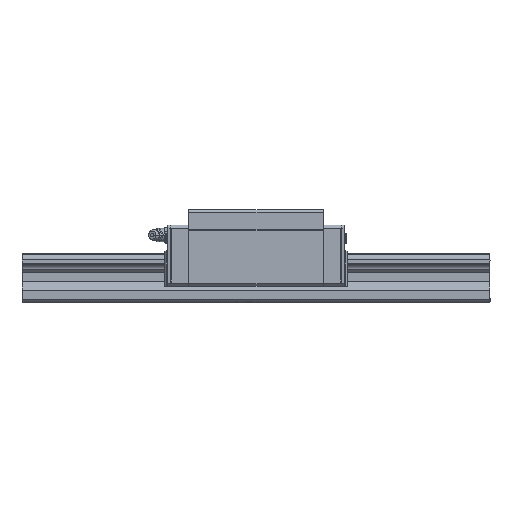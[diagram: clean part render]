
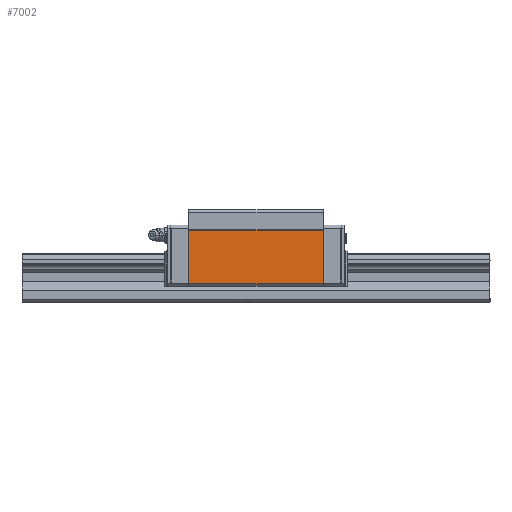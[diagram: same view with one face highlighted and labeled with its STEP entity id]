
A CAD part, top view. The second image highlights one B-rep face of the part: STEP entity #7002.
In plain terms, the highlighted planar face has unit normal (0, 0, 1).
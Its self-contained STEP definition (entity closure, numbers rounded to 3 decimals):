
#371 = DIRECTION ( 'NONE',  ( -1., 0., 0. ) ) ;
#471 = DIRECTION ( 'NONE',  ( 0., 1., 0. ) ) ;
#500 = EDGE_LOOP ( 'NONE', ( #7634, #6440, #8615, #7557 ) ) ;
#799 = VERTEX_POINT ( 'NONE', #9136 ) ;
#1112 = FACE_OUTER_BOUND ( 'NONE', #500, .T. ) ;
#1938 = EDGE_CURVE ( 'NONE', #9650, #6589, #7461, .T. ) ;
#2251 = EDGE_CURVE ( 'NONE', #5400, #6589, #8683, .T. ) ;
#2455 = PLANE ( 'NONE',  #5049 ) ;
#3224 = DIRECTION ( 'NONE',  ( 0., 0., 1. ) ) ;
#4079 = CARTESIAN_POINT ( 'NONE',  ( 79.8, 43., 34.7 ) ) ;
#4412 = LINE ( 'NONE', #7169, #6008 ) ;
#4598 = DIRECTION ( 'NONE',  ( 1., 0., 0. ) ) ;
#4762 = CARTESIAN_POINT ( 'NONE',  ( 79.8, 7.5, 34.7 ) ) ;
#5049 = AXIS2_PLACEMENT_3D ( 'NONE', #5429, #3224, #4598 ) ;
#5400 = VERTEX_POINT ( 'NONE', #4079 ) ;
#5429 = CARTESIAN_POINT ( 'NONE',  ( 160.2, 43., 34.7 ) ) ;
#5486 = DIRECTION ( 'NONE',  ( 0., -1., 0. ) ) ;
#6008 = VECTOR ( 'NONE', #471, 1000. ) ;
#6306 = CARTESIAN_POINT ( 'NONE',  ( 160.2, 10.783, 34.7 ) ) ;
#6342 = EDGE_CURVE ( 'NONE', #799, #5400, #8460, .T. ) ;
#6440 = ORIENTED_EDGE ( 'NONE', *, *, #6342, .T. ) ;
#6589 = VERTEX_POINT ( 'NONE', #9058 ) ;
#7002 = ADVANCED_FACE ( 'NONE', ( #1112 ), #2455, .T. ) ;
#7039 = DIRECTION ( 'NONE',  ( -1., 0., 0. ) ) ;
#7169 = CARTESIAN_POINT ( 'NONE',  ( 160.2, 43., 34.7 ) ) ;
#7461 = LINE ( 'NONE', #6306, #9362 ) ;
#7557 = ORIENTED_EDGE ( 'NONE', *, *, #1938, .F. ) ;
#7606 = VECTOR ( 'NONE', #7039, 1000. ) ;
#7634 = ORIENTED_EDGE ( 'NONE', *, *, #8556, .T. ) ;
#7898 = CARTESIAN_POINT ( 'NONE',  ( 160.2, 43., 34.7 ) ) ;
#8252 = CARTESIAN_POINT ( 'NONE',  ( 160.2, 10.783, 34.7 ) ) ;
#8460 = LINE ( 'NONE', #7898, #7606 ) ;
#8556 = EDGE_CURVE ( 'NONE', #9650, #799, #4412, .T. ) ;
#8615 = ORIENTED_EDGE ( 'NONE', *, *, #2251, .T. ) ;
#8683 = LINE ( 'NONE', #4762, #8917 ) ;
#8917 = VECTOR ( 'NONE', #5486, 1000. ) ;
#9058 = CARTESIAN_POINT ( 'NONE',  ( 79.8, 10.783, 34.7 ) ) ;
#9136 = CARTESIAN_POINT ( 'NONE',  ( 160.2, 43., 34.7 ) ) ;
#9362 = VECTOR ( 'NONE', #371, 1000. ) ;
#9650 = VERTEX_POINT ( 'NONE', #8252 ) ;
